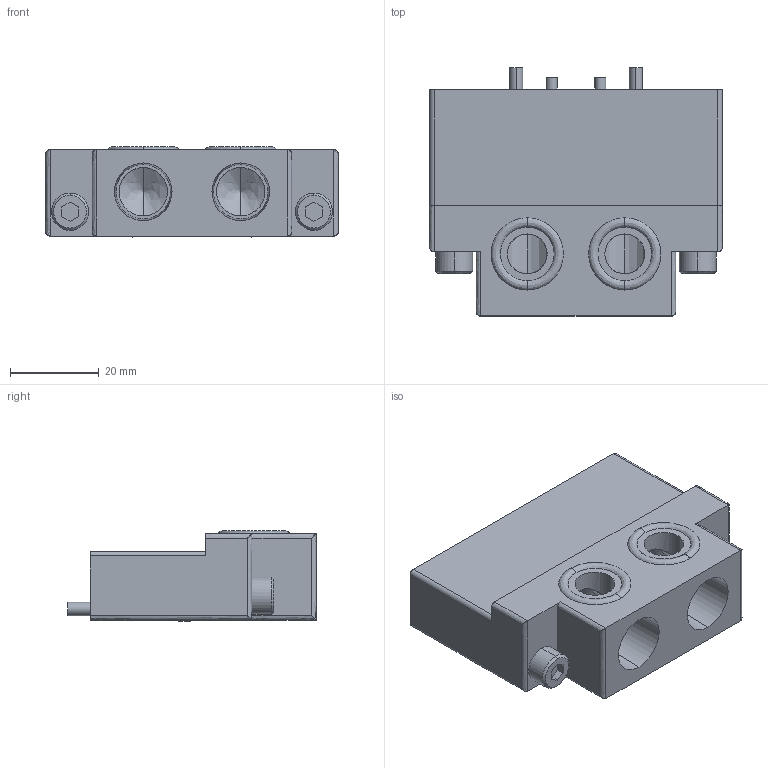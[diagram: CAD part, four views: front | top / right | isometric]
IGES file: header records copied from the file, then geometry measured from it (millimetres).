
Start section: 3D InterOp IGES (v. 2022 1.0.0), Spatial Corp. Copyright (c) 1999-2020.
Global section: file name: KHG-12HS-EP82_ver1.igs; native system: Spatial Corp.; preprocessor: 3D InterOp GENERIC/IGES 3.0; author: Noname; organization: Noname; date: 20260518.095547; units: millimetre
Bounding box: 66 x 56 x 20.3 mm (x, y, z)
Surface area: 14661.5 mm2 (no closed solid volume)
Topology: 0 solids, 0 shells, 169 faces, 784 edges, 780 vertices
Faces by surface type: revolution 89, extrusion 80
